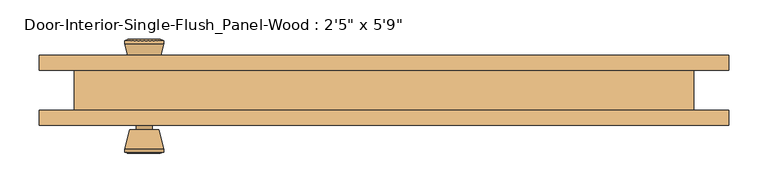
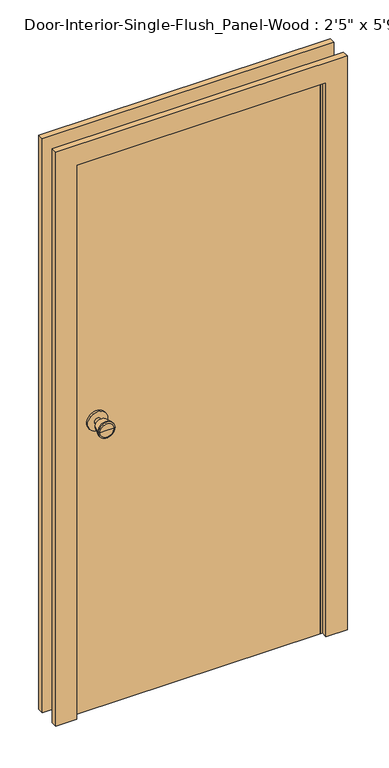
"""IFC4 building model written with IfcOpenShell, lengths in millimetres: door geometry."""

from ifc_helpers import new_model, si_unit, point, frame, frame_2d, origin, origin_with_axes, place, context, project, spatial, polyline, circle_curve, trimmed, segment, composite_curve, outline, extrude, faceted_brep, source, transform, mapped, element, save
from ifc_brep_helpers import plane_surface, cylinder_surface, revolved_surface, advanced_brep


def door_36be590d(model_context):
    return source(origin(), model_context, "Body", "SolidModel", [
        advanced_brep(
        [(-304.8, 18.7, 914.4), (-314.8, 18.7, 914.4), (-294.8, 18.7, 914.4), (-284.3241324, 67.7, 914.4), (-325.2758676, 67.7, 914.4), (-304.8, 67.7, 914.4), (-279.8, 65.8721319, 914.4), (-329.8, 65.8721319, 914.4), (-279.8, 62.4084537, 914.4), (-329.8, 62.4084537, 914.4), (-286.163764, 37.7, 914.4), (-323.436236, 37.7, 914.4), (-294.8, 37.7, 914.4), (-314.8, 37.7, 914.4)],
        [
            (0, 1),
            (1, 2, circle_curve(frame((-304.8, 18.7, 914.4), z_axis=(0.0, -1.0, 0.0), x_axis=(-1.0, 0.0, 0.0)), 10.0)),
            (2, 0),
            (2, 1, circle_curve(frame((-304.8, 18.7, 914.4), z_axis=(0.0, -1.0, 0.0), x_axis=(-1.0, 0.0, 0.0)), 10.0)),
            (3, 4, circle_curve(frame((-304.8, 67.7, 914.4), z_axis=(0.0, 1.0, 0.0), x_axis=(-1.0, 0.0, 0.0)), 20.4758676)),
            (4, 5),
            (5, 3),
            (4, 3, circle_curve(frame((-304.8, 67.7, 914.4), z_axis=(0.0, 1.0, 0.0), x_axis=(-1.0, 0.0, 0.0)), 20.4758676)),
            (6, 7, circle_curve(frame((-304.8, 65.8721319, 914.4), z_axis=(0.0, 1.0, 0.0), x_axis=(-1.0, 0.0, 0.0)), 25.0)),
            (7, 4),
            (3, 6),
            (7, 6, circle_curve(frame((-304.8, 65.8721319, 914.4), z_axis=(0.0, 1.0, 0.0), x_axis=(-1.0, 0.0, 0.0)), 25.0)),
            (8, 9, circle_curve(frame((-304.8, 62.4084537, 914.4), z_axis=(0.0, 1.0, 0.0), x_axis=(-1.0, 0.0, 0.0)), 25.0)),
            (9, 7),
            (6, 8),
            (9, 8, circle_curve(frame((-304.8, 62.4084537, 914.4), z_axis=(0.0, 1.0, 0.0), x_axis=(-1.0, 0.0, 0.0)), 25.0)),
            (10, 11, circle_curve(frame((-304.8, 37.7, 914.4), z_axis=(0.0, 1.0, 0.0), x_axis=(-1.0, 0.0, 0.0)), 18.636236)),
            (11, 9),
            (8, 10),
            (11, 10, circle_curve(frame((-304.8, 37.7, 914.4), z_axis=(0.0, 1.0, 0.0), x_axis=(-1.0, 0.0, 0.0)), 18.636236)),
            (12, 13, circle_curve(frame((-304.8, 37.7, 914.4), z_axis=(0.0, 1.0, 0.0), x_axis=(-1.0, 0.0, 0.0)), 10.0)),
            (13, 11),
            (10, 12),
            (13, 12, circle_curve(frame((-304.8, 37.7, 914.4), z_axis=(0.0, 1.0, 0.0), x_axis=(-1.0, 0.0, 0.0)), 10.0)),
            (1, 13),
            (12, 2),
        ],
        [
            plane_surface(frame((-304.8, 18.7, 914.4), z_axis=(0.0, -1.0, 0.0), x_axis=(-1.0, 0.0, 0.0))),
            plane_surface(frame((-304.8, 67.7, 914.4), z_axis=(0.0, 1.0, 0.0), x_axis=(-1.0, 0.0, 0.0))),
            revolved_surface(polyline([(-325.2758676, 67.7, 914.4), (-329.8, 65.8721319, 914.4)]), (-304.8, 18.7, 914.4), (0.0, -1.0, 0.0)),
            cylinder_surface(frame((-304.8, 18.7, 914.4), z_axis=(0.0, -1.0, 0.0), x_axis=(-1.0, 0.0, 0.0)), 25.0),
            revolved_surface(polyline([(-329.8, 62.4084537, 914.4), (-323.436236, 37.7, 914.4)]), (-304.8, 18.7, 914.4), (0.0, -1.0, 0.0)),
            plane_surface(frame((-304.8, 37.7, 914.4), z_axis=(0.0, -1.0, 0.0), x_axis=(-1.0, 0.0, 0.0))),
            cylinder_surface(frame((-304.8, 18.7, 914.4), z_axis=(0.0, -1.0, 0.0), x_axis=(-1.0, 0.0, 0.0)), 10.0),
        ],
        [
            (0, [[1, 2, 3]]),
            (0, [[-3, 4, -1]]),
            (1, [[5, 6, 7]]),
            (1, [[8, -7, -6]]),
            (2, [[9, 10, -5, 11]]),
            (2, [[12, -11, -8, -10]]),
            (3, [[13, 14, -9, 15]]),
            (3, [[16, -15, -12, -14]]),
            (4, [[17, 18, -13, 19]]),
            (4, [[20, -19, -16, -18]]),
            (5, [[21, 22, -17, 23]]),
            (5, [[24, -23, -20, -22]]),
            (6, [[-2, 25, -21, 26]]),
            (6, [[-4, -26, -24, -25]]),
        ],
    ),
        extrude(outline(composite_curve([segment(trimmed(circle_curve(frame_2d((914.4, -304.8)), 30.0), [point((914.4, -334.8))], [point((914.4, -274.8))], False, "CARTESIAN"), True, "CONTINUOUS"), segment(trimmed(circle_curve(frame_2d((914.4, -304.8)), 30.0), [point((914.4, -274.8))], [point((914.4, -334.8))], False, "CARTESIAN"), True, "CONTINUOUS")], self_intersect=False)), frame((0.0, 12.7, 0.0), z_axis=(0.0, 1.0, 0.0), x_axis=(0.0, 0.0, 1.0)), (0.0, 0.0, 1.0), 6.0),
        advanced_brep(
        [(-304.8, -28.225, 914.4), (-294.8, -28.225, 914.4), (-314.8, -28.225, 914.4), (-284.3241324, -77.225, 914.4), (-304.8, -77.225, 914.4), (-325.2758676, -77.225, 914.4), (-279.8, -75.3971319, 914.4), (-329.8, -75.3971319, 914.4), (-279.8, -71.9334537, 914.4), (-329.8, -71.9334537, 914.4), (-286.163764, -47.225, 914.4), (-323.436236, -47.225, 914.4), (-294.8, -47.225, 914.4), (-314.8, -47.225, 914.4)],
        [
            (0, 1),
            (1, 2, circle_curve(frame((-304.8, -28.225, 914.4), z_axis=(0.0, 1.0, 0.0), x_axis=(-1.0, 0.0, 0.0)), 10.0)),
            (2, 0),
            (2, 1, circle_curve(frame((-304.8, -28.225, 914.4), z_axis=(0.0, 1.0, 0.0), x_axis=(-1.0, 0.0, 0.0)), 10.0)),
            (3, 4),
            (4, 5),
            (5, 3, circle_curve(frame((-304.8, -77.225, 914.4), z_axis=(0.0, -1.0, 0.0), x_axis=(-1.0, 0.0, 0.0)), 20.4758676)),
            (3, 5, circle_curve(frame((-304.8, -77.225, 914.4), z_axis=(0.0, -1.0, 0.0), x_axis=(-1.0, 0.0, 0.0)), 20.4758676)),
            (6, 3),
            (5, 7),
            (7, 6, circle_curve(frame((-304.8, -75.3971319, 914.4), z_axis=(0.0, -1.0, 0.0), x_axis=(-1.0, 0.0, 0.0)), 25.0)),
            (6, 7, circle_curve(frame((-304.8, -75.3971319, 914.4), z_axis=(0.0, -1.0, 0.0), x_axis=(-1.0, 0.0, 0.0)), 25.0)),
            (8, 6),
            (7, 9),
            (9, 8, circle_curve(frame((-304.8, -71.9334537, 914.4), z_axis=(0.0, -1.0, 0.0), x_axis=(-1.0, 0.0, 0.0)), 25.0)),
            (8, 9, circle_curve(frame((-304.8, -71.9334537, 914.4), z_axis=(0.0, -1.0, 0.0), x_axis=(-1.0, 0.0, 0.0)), 25.0)),
            (10, 8),
            (9, 11),
            (11, 10, circle_curve(frame((-304.8, -47.225, 914.4), z_axis=(0.0, -1.0, 0.0), x_axis=(-1.0, 0.0, 0.0)), 18.636236)),
            (10, 11, circle_curve(frame((-304.8, -47.225, 914.4), z_axis=(0.0, -1.0, 0.0), x_axis=(-1.0, 0.0, 0.0)), 18.636236)),
            (12, 10),
            (11, 13),
            (13, 12, circle_curve(frame((-304.8, -47.225, 914.4), z_axis=(0.0, -1.0, 0.0), x_axis=(-1.0, 0.0, 0.0)), 10.0)),
            (12, 13, circle_curve(frame((-304.8, -47.225, 914.4), z_axis=(0.0, -1.0, 0.0), x_axis=(-1.0, 0.0, 0.0)), 10.0)),
            (1, 12),
            (13, 2),
        ],
        [
            plane_surface(frame((-304.8, -28.225, 914.4), z_axis=(0.0, 1.0, 0.0), x_axis=(-1.0, 0.0, 0.0))),
            plane_surface(frame((-304.8, -77.225, 914.4), z_axis=(0.0, -1.0, 0.0), x_axis=(-1.0, 0.0, 0.0))),
            revolved_surface(polyline([(-325.2758676, -77.225, 914.4), (-329.8, -75.3971319, 914.4)]), (-304.8, -28.225, 914.4), (0.0, 1.0, 0.0)),
            cylinder_surface(frame((-304.8, -28.225, 914.4), z_axis=(0.0, 1.0, 0.0), x_axis=(-1.0, 0.0, 0.0)), 25.0),
            revolved_surface(polyline([(-329.8, -71.9334537, 914.4), (-323.436236, -47.225, 914.4)]), (-304.8, -28.225, 914.4), (0.0, 1.0, 0.0)),
            plane_surface(frame((-304.8, -47.225, 914.4), z_axis=(0.0, 1.0, 0.0), x_axis=(-1.0, 0.0, 0.0))),
            cylinder_surface(frame((-304.8, -28.225, 914.4), z_axis=(0.0, 1.0, 0.0), x_axis=(-1.0, 0.0, 0.0)), 10.0),
        ],
        [
            (0, [[1, 2, 3]]),
            (0, [[-3, 4, -1]]),
            (1, [[5, 6, 7]]),
            (1, [[-6, -5, 8]]),
            (2, [[9, -7, 10, 11]]),
            (2, [[-10, -8, -9, 12]]),
            (3, [[13, -11, 14, 15]]),
            (3, [[-14, -12, -13, 16]]),
            (4, [[17, -15, 18, 19]]),
            (4, [[-18, -16, -17, 20]]),
            (5, [[21, -19, 22, 23]]),
            (5, [[-22, -20, -21, 24]]),
            (6, [[25, -23, 26, -2]]),
            (6, [[-26, -24, -25, -4]]),
        ],
    ),
        extrude(outline(composite_curve([segment(trimmed(circle_curve(frame_2d((914.4, -304.8)), 30.0), [point((914.4, -334.8))], [point((914.4, -274.8))], False, "CARTESIAN"), True, "CONTINUOUS"), segment(trimmed(circle_curve(frame_2d((914.4, -304.8)), 30.0), [point((914.4, -274.8))], [point((914.4, -334.8))], False, "CARTESIAN"), True, "CONTINUOUS")], self_intersect=False)), frame((0.0, -28.225, 0.0), z_axis=(0.0, 1.0, 0.0), x_axis=(0.0, 0.0, 1.0)), (0.0, 0.0, 1.0), 6.0),
        extrude(outline(polyline([(368.3, 12.7), (368.3, -22.225), (-368.3, -22.225), (-368.3, 12.7), (368.3, 12.7)])), origin_with_axes(), (0.0, 0.0, 1.0), 1752.6),
        faceted_brep([(393.7, -22.225, 0.0), (368.3, -22.225, 0.0), (368.3, 12.7, 0.0), (355.6, 12.7, 0.0), (355.6, 47.625, 0.0), (368.3, 47.625, 0.0), (368.3, 28.575, 0.0), (393.7, 28.575, 0.0), (393.7, 28.575, 1778.0), (393.7, -22.225, 1778.0), (368.3, 28.575, 1752.6), (-368.3, 28.575, 1752.6), (-368.3, 28.575, 0.0), (-393.7, 28.575, 0.0), (-393.7, 28.575, 1778.0), (368.3, 47.625, 1752.6), (355.6, 47.625, 1739.9), (-355.6, 47.625, 1739.9), (-355.6, 47.625, 0.0), (-368.3, 47.625, 0.0), (-368.3, 47.625, 1752.6), (355.6, 12.7, 1739.9), (368.3, 12.7, 1752.6), (-368.3, 12.7, 1752.6), (-368.3, 12.7, 0.0), (-355.6, 12.7, 0.0), (-355.6, 12.7, 1739.9), (368.3, -22.225, 1752.6), (-393.7, -22.225, 1778.0), (-393.7, -22.225, 0.0), (-368.3, -22.225, 0.0), (-368.3, -22.225, 1752.6)], [[[0, 1, 2, 3, 4, 5, 6, 7]], [[7, 8, 9, 0]], [[6, 10, 11, 12, 13, 14, 8, 7]], [[5, 15, 10, 6]], [[4, 16, 17, 18, 19, 20, 15, 5]], [[3, 21, 16, 4]], [[2, 22, 23, 24, 25, 26, 21, 3]], [[1, 27, 22, 2]], [[0, 9, 28, 29, 30, 31, 27, 1]], [[8, 14, 28, 9]], [[15, 20, 11, 10]], [[21, 26, 17, 16]], [[27, 31, 23, 22]], [[29, 13, 12, 19, 18, 25, 24, 30]], [[14, 13, 29, 28]], [[20, 19, 12, 11]], [[26, 25, 18, 17]], [[31, 30, 24, 23]]]),
        extrude(outline(polyline([(0.0, 438.15), (1822.45, 438.15), (1822.45, -438.15), (0.0, -438.15), (0.0, -374.65), (1758.95, -374.65), (1758.95, 374.65), (0.0, 374.65), (0.0, 438.15)])), frame((0.0, 28.575, 0.0), z_axis=(0.0, 1.0, 0.0), x_axis=(0.0, 0.0, 1.0)), (0.0, 0.0, 1.0), 19.05),
        extrude(outline(polyline([(0.0, 438.15), (1822.45, 438.15), (1822.45, -438.15), (0.0, -438.15), (0.0, -374.65), (1758.95, -374.65), (1758.95, 374.65), (0.0, 374.65), (0.0, 438.15)])), frame((0.0, -41.275, 0.0), z_axis=(0.0, 1.0, 0.0), x_axis=(0.0, 0.0, 1.0)), (0.0, 0.0, 1.0), 19.05),
    ])


if __name__ == "__main__":
    model = new_model("IFC4")
    model_context = context("Model", 3, world=origin())
    ifc_project = project(units=[si_unit("LENGTHUNIT", "METRE", prefix="MILLI")], contexts=[model_context])
    site = spatial("IfcSite", under=ifc_project)
    building = spatial("IfcBuilding", under=site)
    placement = place(None, origin())
    door_shape = door_36be590d(model_context)
    element("IfcDoor", 1, ObjectType="Door-Interior-Single-Flush_Panel-Wood : 2'5\" x 5'9\"", at=placement, inside=building, context=model_context, shape_type="MappedRepresentation", body=[
        mapped(door_shape, transform((0.0, 0.0, 0.0), x_axis=(1.0, 0.0, 0.0), y_axis=(0.0, 1.0, 0.0), z_axis=(0.0, 0.0, 1.0))),
    ])
    save(model, "model.ifc")
